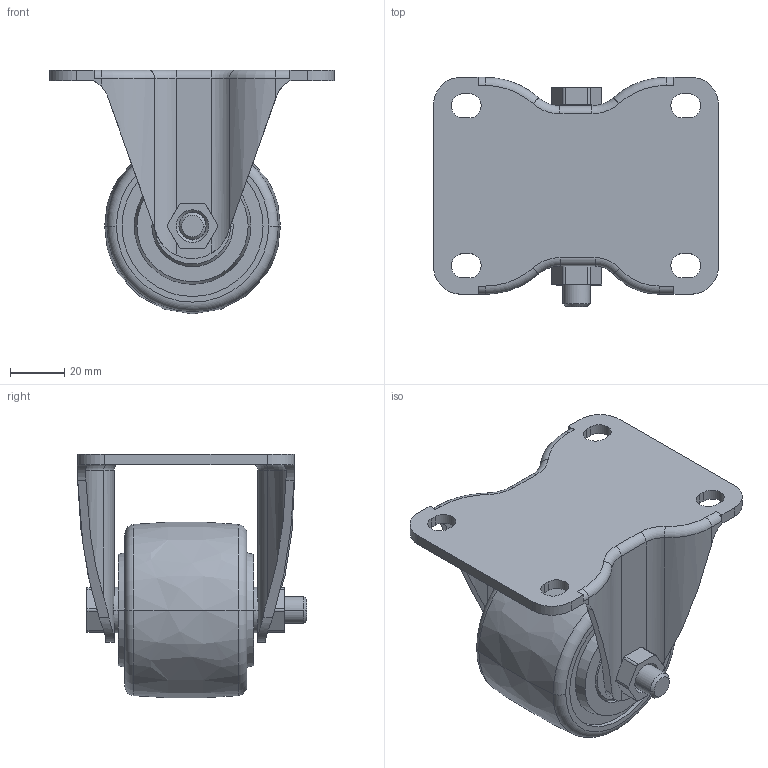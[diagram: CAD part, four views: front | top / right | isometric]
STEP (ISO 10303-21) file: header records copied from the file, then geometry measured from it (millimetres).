
FILE_DESCRIPTION(/* description */ (''),/* implementation_level */ '2;1');
FILE_NAME(/* name */ '30A03_2,5_F.stp',/* time_stamp */ '2022-09-03T12:08:57+08:00',/* author */ (''),/* organization */ (''),/* preprocessor_version */ 'ST-DEVELOPER v14',/* originating_system */ 'SIEMENS PLM Software NX 8.0',/* authorisation */ '');
FILE_SCHEMA (('AUTOMOTIVE_DESIGN { 1 0 10303 214 3 1 1 1 }'));
Length unit declared in the file: millimetre
Products named in the file (1): 30A03_2,5_F
Bounding box: 105 x 84.5 x 89.9 mm (x, y, z)
Volume: 185369.2 mm3; surface area: 52164.4 mm2
Topology: 1 solids, 5 shells, 390 faces, 1036 edges, 678 vertices
Faces by surface type: plane 233, cylinder 117, torus 20, cone 18, bspline 2
Entity records: 12536 total; most frequent: CARTESIAN_POINT 3055, ORIENTED_EDGE 2072, DIRECTION 1836, EDGE_CURVE 1036, AXIS2_PLACEMENT_3D 687, VERTEX_POINT 678, LINE 462, VECTOR 462
